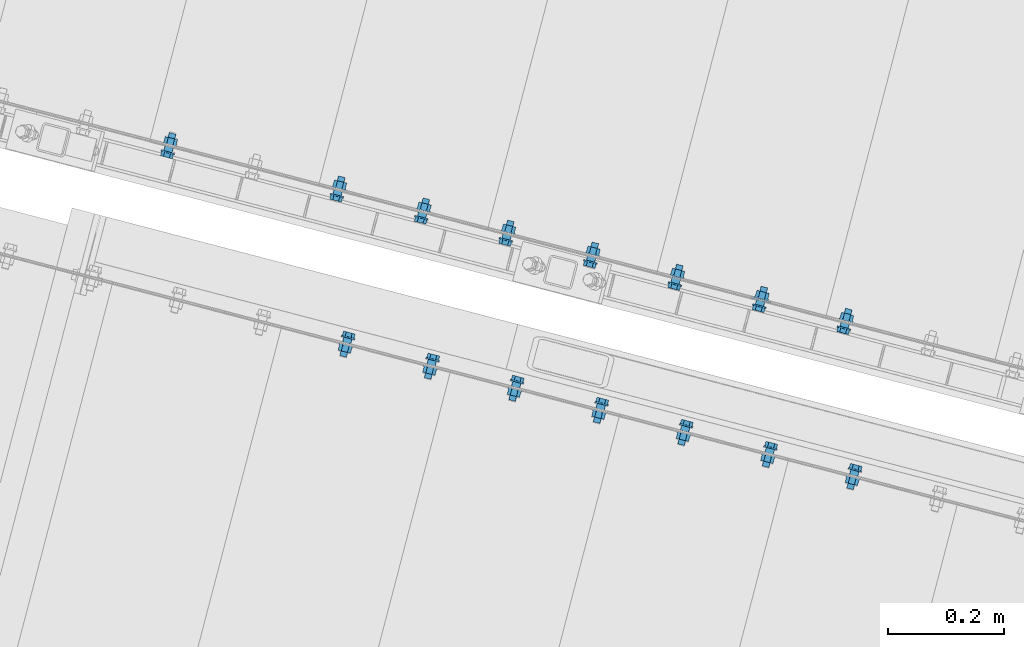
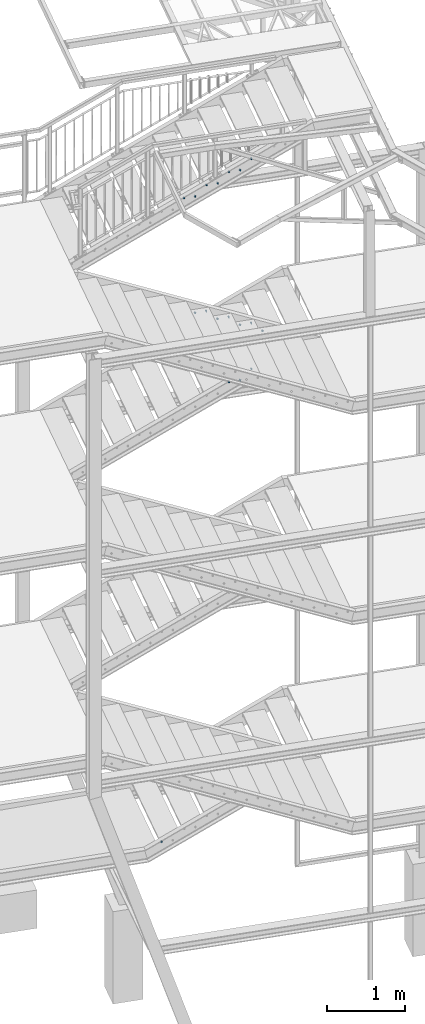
# One storey, part 140 of 169: 18 mechanical fasteners, 11 elements without a shape of their own.
"""IFC2X3 building model written with IfcOpenShell, lengths in millimetres."""

from ifc_helpers import new_model, si_unit, frame, frame_2d, origin_with_axes, origin_2d_with_axis, place, context, subcontext, project, spatial, polyline, circle_curve, parameter, trimmed, segment, composite_curve, circle, outline, extrude, source, transform, mapped, material, type_object, element, aggregate, save


model = new_model("IFC2X3")

# Units and contexts
model_context = context("Model", 3, precision=1e-05, world=origin_with_axes())
body_context = subcontext(model_context, "Body", "Model", "MODEL_VIEW")
ifc_project = project(units=[si_unit("LENGTHUNIT", "METRE", prefix="MILLI"), si_unit("AREAUNIT", "SQUARE_METRE"), si_unit("VOLUMEUNIT", "CUBIC_METRE"), si_unit("MASSUNIT", "GRAM", prefix="KILO"), si_unit("TIMEUNIT", "SECOND"), si_unit("PLANEANGLEUNIT", "RADIAN"), si_unit("SOLIDANGLEUNIT", "STERADIAN"), si_unit("THERMODYNAMICTEMPERATUREUNIT", "DEGREE_CELSIUS"), si_unit("LUMINOUSINTENSITYUNIT", "LUMEN")], contexts=[model_context])

# Site, building, storey
site_placement = place(None, origin_with_axes())
site = spatial("IfcSite", under=ifc_project, at=site_placement, Name="Undefined", CompositionType="ELEMENT")
building_placement = place(site_placement, origin_with_axes())
building = spatial("IfcBuilding", under=site, at=building_placement, Name="Undefined", CompositionType="ELEMENT")
storey_placement = place(building_placement, origin_with_axes())
storey = spatial("IfcBuildingStorey", under=building, at=storey_placement, Name="Undefined", CompositionType="ELEMENT", Elevation=0.0)

# Assembly, mechanical fastener
assembly_1_placement = place(storey_placement, origin_with_axes())
assembly_1 = element("IfcElementAssembly", 1, at=assembly_1_placement, inside=storey, Name="Steel Assembly", AssemblyPlace="NOTDEFINED", PredefinedType="RIGID_FRAME")
ifc_material = material(Name="Undefined")
discrete_accessory_type = type_object("IfcDiscreteAccessoryType", Name="Bolt assembly")
shared_shape_1 = source(origin_with_axes(), body_context, "Body", "SweptSolid", [
    extrude(circle(Radius=7.5, at=origin_2d_with_axis()), frame((0.0, -8.39999975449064, 0.0), z_axis=(0.0, 1.0, 0.0), x_axis=(1.0, 0.0, 0.0)), (0.0, 0.0, 1.0), 8.5),
    extrude(circle(Radius=7.5, at=origin_2d_with_axis()), frame((0.0, -0.100000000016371, 0.0), z_axis=(0.0, 1.0, 0.0), x_axis=(1.0, 0.0, 0.0)), (0.0, 0.0, 1.0), 3.1),
    extrude(outline(polyline([(10.39230484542, 0.0), (5.19615242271, 9.00000000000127), (-5.19615242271, 9.00000000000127), (-10.39230484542, 0.0), (-5.19615242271, -9.00000000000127), (5.19615242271, -9.00000000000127), (10.39230484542, 0.0)])), frame((0.0, -18.4999993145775, 0.0), z_axis=(0.0, 1.0, 0.0), x_axis=(1.0, 0.0, 0.0)), (0.0, 0.0, 1.0), 7.5),
    extrude(circle(Radius=6.0, at=origin_2d_with_axis()), frame((0.0, -10.9999999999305, 0.0), z_axis=(0.0, 1.0, 0.0), x_axis=(1.0, 0.0, 0.0)), (0.0, 0.0, 1.0), 35.0),
    extrude(circle(Radius=12.0, at=origin_2d_with_axis()), frame((0.0, -10.9999999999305, 0.0), z_axis=(0.0, 1.0, 0.0), x_axis=(1.0, 0.0, 0.0)), (0.0, 0.0, 1.0), 2.5),
    extrude(circle(Radius=12.0, at=origin_2d_with_axis()), frame((0.0, 2.99999999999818, 0.0), z_axis=(0.0, 1.0, 0.0), x_axis=(1.0, 0.0, 0.0)), (0.0, 0.0, 1.0), 2.5),
    extrude(outline(polyline([(10.96965511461, 0.0), (5.484827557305, 9.50000000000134), (-5.484827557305, 9.50000000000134), (-10.96965511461, 0.0), (-5.484827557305, -9.50000000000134), (5.484827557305, -9.50000000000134), (10.96965511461, 0.0)])), frame((0.0, 5.50000000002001, 0.0), z_axis=(0.0, 1.0, 0.0), x_axis=(1.0, 0.0, 0.0)), (0.0, 0.0, 1.0), 10.0),
])
mechanical_fastener_1_placement = place(assembly_1_placement, frame((-25306.9672248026, 6727.97971524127, 13550.0957858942), z_axis=(-2.54700353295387e-10, 0.0, -1.0), x_axis=(-0.967580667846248, 0.252562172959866, 0.0)))
mechanical_fastener_1 = element("IfcMechanicalFastener", 2, at=mechanical_fastener_1_placement, type_object=discrete_accessory_type, material=ifc_material, Name="Bolt assembly", NominalDiameter=12.0, NominalLength=35.0, context=body_context, shape_type="MappedRepresentation", body=[
    mapped(shared_shape_1, transform((264.999998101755, 3.26144800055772e-09, 24.9999997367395))),
])
aggregate(assembly_1, [mechanical_fastener_1])

assembly_2_placement = place(storey_placement, origin_with_axes())
assembly_2 = element("IfcElementAssembly", 3, at=assembly_2_placement, inside=storey, Name="Steel Assembly", AssemblyPlace="NOTDEFINED", PredefinedType="RIGID_FRAME")
mechanical_fastener_2_placement = place(assembly_2_placement, frame((-25597.2414285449, 6803.74836804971, 13400.0957858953), z_axis=(-2.54700353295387e-10, 0.0, -1.0), x_axis=(-0.967580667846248, 0.252562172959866, 0.0)))
mechanical_fastener_2 = element("IfcMechanicalFastener", 4, at=mechanical_fastener_2_placement, type_object=discrete_accessory_type, material=ifc_material, Name="Bolt assembly", NominalDiameter=12.0, NominalLength=35.0, context=body_context, shape_type="MappedRepresentation", body=[
    mapped(shared_shape_1, transform((264.999998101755, 3.26144800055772e-09, 24.9999997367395))),
])

assembly_3_placement = place(storey_placement, origin_with_axes())
assembly_3 = element("IfcElementAssembly", 5, at=assembly_3_placement, inside=storey, Name="Steel Assembly", AssemblyPlace="NOTDEFINED", PredefinedType="RIGID_FRAME")
mechanical_fastener_3_placement = place(assembly_3_placement, frame((-25887.5156322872, 6879.51702085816, 13250.0957858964), z_axis=(-2.54700353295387e-10, 0.0, -1.0), x_axis=(-0.967580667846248, 0.252562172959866, 0.0)))
mechanical_fastener_3 = element("IfcMechanicalFastener", 6, at=mechanical_fastener_3_placement, type_object=discrete_accessory_type, material=ifc_material, Name="Bolt assembly", NominalDiameter=12.0, NominalLength=35.0, context=body_context, shape_type="MappedRepresentation", body=[
    mapped(shared_shape_1, transform((264.999998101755, 3.26144800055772e-09, 24.9999997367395))),
])

assembly_4_placement = place(storey_placement, origin_with_axes())
assembly_4 = element("IfcElementAssembly", 7, at=assembly_4_placement, inside=storey, Name="Steel Assembly", AssemblyPlace="NOTDEFINED", PredefinedType="RIGID_FRAME")
mechanical_fastener_4_placement = place(assembly_4_placement, frame((-26177.7898360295, 6955.2856736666, 13100.0957858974), z_axis=(-2.54700353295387e-10, 0.0, -1.0), x_axis=(-0.967580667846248, 0.252562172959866, 0.0)))
mechanical_fastener_4 = element("IfcMechanicalFastener", 8, at=mechanical_fastener_4_placement, type_object=discrete_accessory_type, material=ifc_material, Name="Bolt assembly", NominalDiameter=12.0, NominalLength=35.0, context=body_context, shape_type="MappedRepresentation", body=[
    mapped(shared_shape_1, transform((264.999998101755, 3.26144800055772e-09, 24.9999997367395))),
])

assembly_5_placement = place(storey_placement, origin_with_axes())
assembly_5 = element("IfcElementAssembly", 9, at=assembly_5_placement, inside=storey, Name="Steel Assembly", AssemblyPlace="NOTDEFINED", PredefinedType="RIGID_FRAME")
mechanical_fastener_5_placement = place(assembly_5_placement, frame((-26531.2730062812, 6788.96490047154, 11450.3215824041), z_axis=(-2.54700353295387e-10, 0.0, -1.0), x_axis=(0.96754609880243, -0.252694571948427, 0.0)))
mechanical_fastener_5 = element("IfcMechanicalFastener", 10, at=mechanical_fastener_5_placement, type_object=discrete_accessory_type, material=ifc_material, Name="Bolt assembly", NominalDiameter=12.0, NominalLength=35.0, context=body_context, shape_type="MappedRepresentation", body=[
    mapped(shared_shape_1, transform((264.999998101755, 3.26144800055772e-09, 24.9999997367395))),
])

assembly_6_placement = place(storey_placement, origin_with_axes())
assembly_6 = element("IfcElementAssembly", 11, at=assembly_6_placement, inside=storey, Name="Steel Assembly", AssemblyPlace="NOTDEFINED", PredefinedType="RIGID_FRAME")
mechanical_fastener_6_placement = place(assembly_6_placement, frame((-26241.009173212, 6713.1565281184, 11300.321582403), z_axis=(-2.54700353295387e-10, 0.0, -1.0), x_axis=(0.96754609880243, -0.252694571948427, 0.0)))
mechanical_fastener_6 = element("IfcMechanicalFastener", 12, at=mechanical_fastener_6_placement, type_object=discrete_accessory_type, material=ifc_material, Name="Bolt assembly", NominalDiameter=12.0, NominalLength=35.0, context=body_context, shape_type="MappedRepresentation", body=[
    mapped(shared_shape_1, transform((264.999998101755, 3.26144800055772e-09, 24.9999997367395))),
])

assembly_7_placement = place(storey_placement, origin_with_axes())
assembly_7 = element("IfcElementAssembly", 13, at=assembly_7_placement, inside=storey, Name="Steel Assembly", AssemblyPlace="NOTDEFINED", PredefinedType="RIGID_FRAME")
mechanical_fastener_7_placement = place(assembly_7_placement, frame((-25950.7453401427, 6637.34815576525, 11150.3215824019), z_axis=(-2.54700353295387e-10, 0.0, -1.0), x_axis=(0.96754609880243, -0.252694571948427, 0.0)))
mechanical_fastener_7 = element("IfcMechanicalFastener", 14, at=mechanical_fastener_7_placement, type_object=discrete_accessory_type, material=ifc_material, Name="Bolt assembly", NominalDiameter=12.0, NominalLength=35.0, context=body_context, shape_type="MappedRepresentation", body=[
    mapped(shared_shape_1, transform((264.999998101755, 3.26144800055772e-09, 24.9999997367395))),
])

assembly_8_placement = place(storey_placement, origin_with_axes())
assembly_8 = element("IfcElementAssembly", 15, at=assembly_8_placement, inside=storey, Name="Steel Assembly", AssemblyPlace="NOTDEFINED", PredefinedType="RIGID_FRAME")
mechanical_fastener_8_placement = place(assembly_8_placement, frame((-25307.0813021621, 6727.54280026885, 10250.0958168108), z_axis=(-2.54700353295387e-10, 0.0, -1.0), x_axis=(-0.967580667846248, 0.252562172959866, 0.0)))
mechanical_fastener_8 = element("IfcMechanicalFastener", 16, at=mechanical_fastener_8_placement, type_object=discrete_accessory_type, material=ifc_material, Name="Bolt assembly", NominalDiameter=12.0, NominalLength=35.0, context=body_context, shape_type="MappedRepresentation", body=[
    mapped(shared_shape_1, transform((264.999998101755, 3.26144800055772e-09, 24.9999997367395))),
])
aggregate(assembly_8, [mechanical_fastener_8])

assembly_9_placement = place(storey_placement, origin_with_axes())
assembly_9 = element("IfcElementAssembly", 17, at=assembly_9_placement, inside=storey, Name="Steel Assembly", AssemblyPlace="NOTDEFINED", PredefinedType="RIGID_FRAME")
mechanical_fastener_9_placement = place(assembly_9_placement, frame((-25597.3555059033, 6803.31145307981, 10100.0958168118), z_axis=(-2.54700353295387e-10, 0.0, -1.0), x_axis=(-0.967580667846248, 0.252562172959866, 0.0)))
mechanical_fastener_9 = element("IfcMechanicalFastener", 18, at=mechanical_fastener_9_placement, type_object=discrete_accessory_type, material=ifc_material, Name="Bolt assembly", NominalDiameter=12.0, NominalLength=35.0, context=body_context, shape_type="MappedRepresentation", body=[
    mapped(shared_shape_1, transform((264.999998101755, 3.26144800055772e-09, 24.9999997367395))),
])

assembly_10_placement = place(storey_placement, origin_with_axes())
assembly_10 = element("IfcElementAssembly", 19, at=assembly_10_placement, inside=storey, Name="Steel Assembly", AssemblyPlace="NOTDEFINED", PredefinedType="RIGID_FRAME")
mechanical_fastener_10_placement = place(assembly_10_placement, frame((-26468.4062800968, 7029.74358397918, 3050.09587438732), z_axis=(-2.54700353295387e-10, 0.0, -1.0), x_axis=(-0.967580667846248, 0.252562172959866, 0.0)))
mechanical_fastener_10 = element("IfcMechanicalFastener", 20, at=mechanical_fastener_10_placement, type_object=discrete_accessory_type, material=ifc_material, Name="Bolt assembly", NominalDiameter=12.0, NominalLength=35.0, context=body_context, shape_type="MappedRepresentation", body=[
    mapped(shared_shape_1, transform((264.999998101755, 3.26144800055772e-09, 24.9999997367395))),
])
aggregate(assembly_10, [mechanical_fastener_10])

# Mechanical fastener
shared_shape_2 = source(origin_with_axes(), body_context, "Body", "SweptSolid", [
    extrude(circle(Radius=7.5, at=origin_2d_with_axis()), frame((0.0, -8.39999975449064, 0.0), z_axis=(0.0, 1.0, 0.0), x_axis=(1.0, 0.0, 0.0)), (0.0, 0.0, 1.0), 8.5),
    extrude(outline(composite_curve([segment(polyline([(-10.0, 7.5), (10.0, 7.5)]), True, "CONTINUOUS"), segment(trimmed(circle_curve(frame_2d((10.0, 0.0), x_axis=(0.0, 1.0)), 7.5), [parameter(0.0)], [parameter(3.14159265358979)], False, "PARAMETER"), True, "CONTINUOUS"), segment(polyline([(10.0, -7.5), (-10.0, -7.5)]), True, "CONTINUOUS"), segment(trimmed(circle_curve(frame_2d((-10.0, 0.0), x_axis=(0.0, -1.0)), 7.5), [parameter(0.0)], [parameter(3.14159265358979)], False, "PARAMETER"), True, "DISCONTINUOUS")], self_intersect=False)), frame((0.0, -0.100000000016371, 0.0), z_axis=(0.0, 1.0, 0.0), x_axis=(1.0, 0.0, 0.0)), (0.0, 0.0, 1.0), 3.1),
    extrude(outline(polyline([(10.39230484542, 0.0), (5.19615242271, 9.00000000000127), (-5.19615242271, 9.00000000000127), (-10.39230484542, 0.0), (-5.19615242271, -9.00000000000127), (5.19615242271, -9.00000000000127), (10.39230484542, 0.0)])), frame((0.0, -18.4999993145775, 0.0), z_axis=(0.0, 1.0, 0.0), x_axis=(1.0, 0.0, 0.0)), (0.0, 0.0, 1.0), 7.5),
    extrude(circle(Radius=6.0, at=origin_2d_with_axis()), frame((0.0, -10.9999999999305, 0.0), z_axis=(0.0, 1.0, 0.0), x_axis=(1.0, 0.0, 0.0)), (0.0, 0.0, 1.0), 35.0),
    extrude(circle(Radius=12.0, at=origin_2d_with_axis()), frame((0.0, -10.9999999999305, 0.0), z_axis=(0.0, 1.0, 0.0), x_axis=(1.0, 0.0, 0.0)), (0.0, 0.0, 1.0), 2.5),
    extrude(circle(Radius=12.0, at=origin_2d_with_axis()), frame((0.0, 2.99999999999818, 0.0), z_axis=(0.0, 1.0, 0.0), x_axis=(1.0, 0.0, 0.0)), (0.0, 0.0, 1.0), 2.5),
    extrude(outline(polyline([(10.96965511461, 0.0), (5.484827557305, 9.50000000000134), (-5.484827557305, 9.50000000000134), (-10.96965511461, 0.0), (-5.484827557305, -9.50000000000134), (5.484827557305, -9.50000000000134), (10.96965511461, 0.0)])), frame((0.0, 5.50000000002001, 0.0), z_axis=(0.0, 1.0, 0.0), x_axis=(1.0, 0.0, 0.0)), (0.0, 0.0, 1.0), 10.0),
])
mechanical_fastener_11_placement = place(assembly_2_placement, frame((-25597.2414285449, 6803.74836804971, 13400.0957858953), z_axis=(-2.54700353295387e-10, 0.0, -1.0), x_axis=(-0.967580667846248, 0.252562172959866, 0.0)))
mechanical_fastener_11 = element("IfcMechanicalFastener", 21, at=mechanical_fastener_11_placement, type_object=discrete_accessory_type, material=ifc_material, Name="Bolt assembly", NominalDiameter=12.0, NominalLength=35.0, context=body_context, shape_type="MappedRepresentation", body=[
    mapped(shared_shape_2, transform((115.000000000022, -4.04725142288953e-10, 25.0))),
])

aggregate(assembly_2, [mechanical_fastener_11, mechanical_fastener_2])

shared_shape_3 = source(origin_with_axes(), body_context, "Body", "SweptSolid", [
    extrude(circle(Radius=7.5, at=origin_2d_with_axis()), frame((0.0, -8.39999975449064, 0.0), z_axis=(0.0, 1.0, 0.0), x_axis=(1.0, 0.0, 0.0)), (0.0, 0.0, 1.0), 8.5),
    extrude(outline(composite_curve([segment(polyline([(-10.0, 7.5), (10.0, 7.5)]), True, "CONTINUOUS"), segment(trimmed(circle_curve(frame_2d((10.0, 0.0), x_axis=(0.0, 1.0)), 7.5), [parameter(0.0)], [parameter(3.14159265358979)], False, "PARAMETER"), True, "CONTINUOUS"), segment(polyline([(10.0, -7.5), (-10.0, -7.5)]), True, "CONTINUOUS"), segment(trimmed(circle_curve(frame_2d((-10.0, 0.0), x_axis=(0.0, -1.0)), 7.5), [parameter(0.0)], [parameter(3.14159265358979)], False, "PARAMETER"), True, "DISCONTINUOUS")], self_intersect=False)), frame((0.0, -0.100000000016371, 0.0), z_axis=(0.0, 1.0, 0.0), x_axis=(1.0, 0.0, 0.0)), (0.0, 0.0, 1.0), 3.1),
    extrude(outline(polyline([(10.39230484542, 0.0), (5.19615242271, 9.00000000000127), (-5.19615242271, 9.00000000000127), (-10.39230484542, 0.0), (-5.19615242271, -9.00000000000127), (5.19615242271, -9.00000000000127), (10.39230484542, 0.0)])), frame((0.0, -18.4999993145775, 0.0), z_axis=(0.0, 1.0, 0.0), x_axis=(1.0, 0.0, 0.0)), (0.0, 0.0, 1.0), 7.5),
    extrude(circle(Radius=6.0, at=origin_2d_with_axis()), frame((0.0, -10.9999999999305, 0.0), z_axis=(0.0, 1.0, 0.0), x_axis=(1.0, 0.0, 0.0)), (0.0, 0.0, 1.0), 35.0),
    extrude(circle(Radius=12.0, at=origin_2d_with_axis()), frame((0.0, -10.9999999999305, 0.0), z_axis=(0.0, 1.0, 0.0), x_axis=(1.0, 0.0, 0.0)), (0.0, 0.0, 1.0), 2.5),
    extrude(circle(Radius=12.0, at=origin_2d_with_axis()), frame((0.0, 2.99999999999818, 0.0), z_axis=(0.0, 1.0, 0.0), x_axis=(1.0, 0.0, 0.0)), (0.0, 0.0, 1.0), 2.5),
    extrude(outline(polyline([(10.96965511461, 0.0), (5.484827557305, 9.50000000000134), (-5.484827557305, 9.50000000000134), (-10.96965511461, 0.0), (-5.484827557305, -9.50000000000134), (5.484827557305, -9.50000000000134), (10.96965511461, 0.0)])), frame((0.0, 5.50000000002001, 0.0), z_axis=(0.0, 1.0, 0.0), x_axis=(1.0, 0.0, 0.0)), (0.0, 0.0, 1.0), 10.0),
])
mechanical_fastener_12_placement = place(assembly_3_placement, frame((-25887.5156322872, 6879.51702085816, 13250.0957858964), z_axis=(-2.54700353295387e-10, 0.0, -1.0), x_axis=(-0.967580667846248, 0.252562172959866, 0.0)))
mechanical_fastener_12 = element("IfcMechanicalFastener", 22, at=mechanical_fastener_12_placement, type_object=discrete_accessory_type, material=ifc_material, Name="Bolt assembly", NominalDiameter=12.0, NominalLength=35.0, context=body_context, shape_type="MappedRepresentation", body=[
    mapped(shared_shape_3, transform((115.000000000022, -4.04725142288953e-10, 25.0))),
])

aggregate(assembly_3, [mechanical_fastener_12, mechanical_fastener_3])

shared_shape_4 = source(origin_with_axes(), body_context, "Body", "SweptSolid", [
    extrude(circle(Radius=7.5, at=origin_2d_with_axis()), frame((0.0, -8.39999975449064, 0.0), z_axis=(0.0, 1.0, 0.0), x_axis=(1.0, 0.0, 0.0)), (0.0, 0.0, 1.0), 8.5),
    extrude(outline(composite_curve([segment(polyline([(-10.0, 7.5), (10.0, 7.5)]), True, "CONTINUOUS"), segment(trimmed(circle_curve(frame_2d((10.0, 0.0), x_axis=(0.0, 1.0)), 7.5), [parameter(0.0)], [parameter(3.14159265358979)], False, "PARAMETER"), True, "CONTINUOUS"), segment(polyline([(10.0, -7.5), (-10.0, -7.5)]), True, "CONTINUOUS"), segment(trimmed(circle_curve(frame_2d((-10.0, 0.0), x_axis=(0.0, -1.0)), 7.5), [parameter(0.0)], [parameter(3.14159265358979)], False, "PARAMETER"), True, "DISCONTINUOUS")], self_intersect=False)), frame((0.0, -0.100000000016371, 0.0), z_axis=(0.0, 1.0, 0.0), x_axis=(1.0, 0.0, 0.0)), (0.0, 0.0, 1.0), 3.1),
    extrude(outline(polyline([(10.39230484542, 0.0), (5.19615242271, 9.00000000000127), (-5.19615242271, 9.00000000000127), (-10.39230484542, 0.0), (-5.19615242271, -9.00000000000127), (5.19615242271, -9.00000000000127), (10.39230484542, 0.0)])), frame((0.0, -18.4999993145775, 0.0), z_axis=(0.0, 1.0, 0.0), x_axis=(1.0, 0.0, 0.0)), (0.0, 0.0, 1.0), 7.5),
    extrude(circle(Radius=6.0, at=origin_2d_with_axis()), frame((0.0, -10.9999999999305, 0.0), z_axis=(0.0, 1.0, 0.0), x_axis=(1.0, 0.0, 0.0)), (0.0, 0.0, 1.0), 35.0),
    extrude(circle(Radius=12.0, at=origin_2d_with_axis()), frame((0.0, -10.9999999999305, 0.0), z_axis=(0.0, 1.0, 0.0), x_axis=(1.0, 0.0, 0.0)), (0.0, 0.0, 1.0), 2.5),
    extrude(circle(Radius=12.0, at=origin_2d_with_axis()), frame((0.0, 2.99999999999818, 0.0), z_axis=(0.0, 1.0, 0.0), x_axis=(1.0, 0.0, 0.0)), (0.0, 0.0, 1.0), 2.5),
    extrude(outline(polyline([(10.96965511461, 0.0), (5.484827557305, 9.50000000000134), (-5.484827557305, 9.50000000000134), (-10.96965511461, 0.0), (-5.484827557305, -9.50000000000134), (5.484827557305, -9.50000000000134), (10.96965511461, 0.0)])), frame((0.0, 5.50000000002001, 0.0), z_axis=(0.0, 1.0, 0.0), x_axis=(1.0, 0.0, 0.0)), (0.0, 0.0, 1.0), 10.0),
])
mechanical_fastener_13_placement = place(assembly_4_placement, frame((-26177.7898360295, 6955.2856736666, 13100.0957858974), z_axis=(-2.54700353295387e-10, 0.0, -1.0), x_axis=(-0.967580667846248, 0.252562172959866, 0.0)))
mechanical_fastener_13 = element("IfcMechanicalFastener", 23, at=mechanical_fastener_13_placement, type_object=discrete_accessory_type, material=ifc_material, Name="Bolt assembly", NominalDiameter=12.0, NominalLength=35.0, context=body_context, shape_type="MappedRepresentation", body=[
    mapped(shared_shape_4, transform((115.000000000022, -4.04725142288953e-10, 25.0))),
])

aggregate(assembly_4, [mechanical_fastener_13, mechanical_fastener_4])

shared_shape_5 = source(origin_with_axes(), body_context, "Body", "SweptSolid", [
    extrude(circle(Radius=7.5, at=origin_2d_with_axis()), frame((0.0, -8.39999975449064, 0.0), z_axis=(0.0, 1.0, 0.0), x_axis=(1.0, 0.0, 0.0)), (0.0, 0.0, 1.0), 8.5),
    extrude(outline(composite_curve([segment(polyline([(-10.0, 7.5), (10.0, 7.5)]), True, "CONTINUOUS"), segment(trimmed(circle_curve(frame_2d((10.0, 0.0), x_axis=(0.0, 1.0)), 7.5), [parameter(0.0)], [parameter(3.14159265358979)], False, "PARAMETER"), True, "CONTINUOUS"), segment(polyline([(10.0, -7.5), (-10.0, -7.5)]), True, "CONTINUOUS"), segment(trimmed(circle_curve(frame_2d((-10.0, 0.0), x_axis=(0.0, -1.0)), 7.5), [parameter(0.0)], [parameter(3.14159265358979)], False, "PARAMETER"), True, "DISCONTINUOUS")], self_intersect=False)), frame((0.0, -0.100000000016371, 0.0), z_axis=(0.0, 1.0, 0.0), x_axis=(1.0, 0.0, 0.0)), (0.0, 0.0, 1.0), 3.1),
    extrude(outline(polyline([(10.39230484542, 0.0), (5.19615242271, 9.00000000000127), (-5.19615242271, 9.00000000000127), (-10.39230484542, 0.0), (-5.19615242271, -9.00000000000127), (5.19615242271, -9.00000000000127), (10.39230484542, 0.0)])), frame((0.0, -18.4999993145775, 0.0), z_axis=(0.0, 1.0, 0.0), x_axis=(1.0, 0.0, 0.0)), (0.0, 0.0, 1.0), 7.5),
    extrude(circle(Radius=6.0, at=origin_2d_with_axis()), frame((0.0, -10.9999999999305, 0.0), z_axis=(0.0, 1.0, 0.0), x_axis=(1.0, 0.0, 0.0)), (0.0, 0.0, 1.0), 35.0),
    extrude(circle(Radius=12.0, at=origin_2d_with_axis()), frame((0.0, -10.9999999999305, 0.0), z_axis=(0.0, 1.0, 0.0), x_axis=(1.0, 0.0, 0.0)), (0.0, 0.0, 1.0), 2.5),
    extrude(circle(Radius=12.0, at=origin_2d_with_axis()), frame((0.0, 2.99999999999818, 0.0), z_axis=(0.0, 1.0, 0.0), x_axis=(1.0, 0.0, 0.0)), (0.0, 0.0, 1.0), 2.5),
    extrude(outline(polyline([(10.96965511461, 0.0), (5.484827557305, 9.50000000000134), (-5.484827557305, 9.50000000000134), (-10.96965511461, 0.0), (-5.484827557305, -9.50000000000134), (5.484827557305, -9.50000000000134), (10.96965511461, 0.0)])), frame((0.0, 5.50000000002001, 0.0), z_axis=(0.0, 1.0, 0.0), x_axis=(1.0, 0.0, 0.0)), (0.0, 0.0, 1.0), 10.0),
])
mechanical_fastener_14_placement = place(assembly_5_placement, frame((-26531.2730062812, 6788.96490047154, 11450.3215824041), z_axis=(-2.54700353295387e-10, 0.0, -1.0), x_axis=(0.96754609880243, -0.252694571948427, 0.0)))
mechanical_fastener_14 = element("IfcMechanicalFastener", 24, at=mechanical_fastener_14_placement, type_object=discrete_accessory_type, material=ifc_material, Name="Bolt assembly", NominalDiameter=12.0, NominalLength=35.0, context=body_context, shape_type="MappedRepresentation", body=[
    mapped(shared_shape_5, transform((115.000000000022, -4.04725142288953e-10, 25.0))),
])

aggregate(assembly_5, [mechanical_fastener_14, mechanical_fastener_5])

shared_shape_6 = source(origin_with_axes(), body_context, "Body", "SweptSolid", [
    extrude(circle(Radius=7.5, at=origin_2d_with_axis()), frame((0.0, -8.39999975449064, 0.0), z_axis=(0.0, 1.0, 0.0), x_axis=(1.0, 0.0, 0.0)), (0.0, 0.0, 1.0), 8.5),
    extrude(outline(composite_curve([segment(polyline([(-10.0, 7.5), (10.0, 7.5)]), True, "CONTINUOUS"), segment(trimmed(circle_curve(frame_2d((10.0, 0.0), x_axis=(0.0, 1.0)), 7.5), [parameter(0.0)], [parameter(3.14159265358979)], False, "PARAMETER"), True, "CONTINUOUS"), segment(polyline([(10.0, -7.5), (-10.0, -7.5)]), True, "CONTINUOUS"), segment(trimmed(circle_curve(frame_2d((-10.0, 0.0), x_axis=(0.0, -1.0)), 7.5), [parameter(0.0)], [parameter(3.14159265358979)], False, "PARAMETER"), True, "DISCONTINUOUS")], self_intersect=False)), frame((0.0, -0.100000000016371, 0.0), z_axis=(0.0, 1.0, 0.0), x_axis=(1.0, 0.0, 0.0)), (0.0, 0.0, 1.0), 3.1),
    extrude(outline(polyline([(10.39230484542, 0.0), (5.19615242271, 9.00000000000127), (-5.19615242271, 9.00000000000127), (-10.39230484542, 0.0), (-5.19615242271, -9.00000000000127), (5.19615242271, -9.00000000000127), (10.39230484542, 0.0)])), frame((0.0, -18.4999993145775, 0.0), z_axis=(0.0, 1.0, 0.0), x_axis=(1.0, 0.0, 0.0)), (0.0, 0.0, 1.0), 7.5),
    extrude(circle(Radius=6.0, at=origin_2d_with_axis()), frame((0.0, -10.9999999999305, 0.0), z_axis=(0.0, 1.0, 0.0), x_axis=(1.0, 0.0, 0.0)), (0.0, 0.0, 1.0), 35.0),
    extrude(circle(Radius=12.0, at=origin_2d_with_axis()), frame((0.0, -10.9999999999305, 0.0), z_axis=(0.0, 1.0, 0.0), x_axis=(1.0, 0.0, 0.0)), (0.0, 0.0, 1.0), 2.5),
    extrude(circle(Radius=12.0, at=origin_2d_with_axis()), frame((0.0, 2.99999999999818, 0.0), z_axis=(0.0, 1.0, 0.0), x_axis=(1.0, 0.0, 0.0)), (0.0, 0.0, 1.0), 2.5),
    extrude(outline(polyline([(10.96965511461, 0.0), (5.484827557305, 9.50000000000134), (-5.484827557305, 9.50000000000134), (-10.96965511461, 0.0), (-5.484827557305, -9.50000000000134), (5.484827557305, -9.50000000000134), (10.96965511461, 0.0)])), frame((0.0, 5.50000000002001, 0.0), z_axis=(0.0, 1.0, 0.0), x_axis=(1.0, 0.0, 0.0)), (0.0, 0.0, 1.0), 10.0),
])
mechanical_fastener_15_placement = place(assembly_6_placement, frame((-26241.009173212, 6713.1565281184, 11300.321582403), z_axis=(-2.54700353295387e-10, 0.0, -1.0), x_axis=(0.96754609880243, -0.252694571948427, 0.0)))
mechanical_fastener_15 = element("IfcMechanicalFastener", 25, at=mechanical_fastener_15_placement, type_object=discrete_accessory_type, material=ifc_material, Name="Bolt assembly", NominalDiameter=12.0, NominalLength=35.0, context=body_context, shape_type="MappedRepresentation", body=[
    mapped(shared_shape_6, transform((115.000000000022, -4.04725142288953e-10, 25.0))),
])

aggregate(assembly_6, [mechanical_fastener_15, mechanical_fastener_6])

shared_shape_7 = source(origin_with_axes(), body_context, "Body", "SweptSolid", [
    extrude(circle(Radius=7.5, at=origin_2d_with_axis()), frame((0.0, -8.39999975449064, 0.0), z_axis=(0.0, 1.0, 0.0), x_axis=(1.0, 0.0, 0.0)), (0.0, 0.0, 1.0), 8.5),
    extrude(outline(composite_curve([segment(polyline([(-10.0, 7.5), (10.0, 7.5)]), True, "CONTINUOUS"), segment(trimmed(circle_curve(frame_2d((10.0, 0.0), x_axis=(0.0, 1.0)), 7.5), [parameter(0.0)], [parameter(3.14159265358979)], False, "PARAMETER"), True, "CONTINUOUS"), segment(polyline([(10.0, -7.5), (-10.0, -7.5)]), True, "CONTINUOUS"), segment(trimmed(circle_curve(frame_2d((-10.0, 0.0), x_axis=(0.0, -1.0)), 7.5), [parameter(0.0)], [parameter(3.14159265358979)], False, "PARAMETER"), True, "DISCONTINUOUS")], self_intersect=False)), frame((0.0, -0.100000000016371, 0.0), z_axis=(0.0, 1.0, 0.0), x_axis=(1.0, 0.0, 0.0)), (0.0, 0.0, 1.0), 3.1),
    extrude(outline(polyline([(10.39230484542, 0.0), (5.19615242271, 9.00000000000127), (-5.19615242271, 9.00000000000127), (-10.39230484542, 0.0), (-5.19615242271, -9.00000000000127), (5.19615242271, -9.00000000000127), (10.39230484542, 0.0)])), frame((0.0, -18.4999993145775, 0.0), z_axis=(0.0, 1.0, 0.0), x_axis=(1.0, 0.0, 0.0)), (0.0, 0.0, 1.0), 7.5),
    extrude(circle(Radius=6.0, at=origin_2d_with_axis()), frame((0.0, -10.9999999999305, 0.0), z_axis=(0.0, 1.0, 0.0), x_axis=(1.0, 0.0, 0.0)), (0.0, 0.0, 1.0), 35.0),
    extrude(circle(Radius=12.0, at=origin_2d_with_axis()), frame((0.0, -10.9999999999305, 0.0), z_axis=(0.0, 1.0, 0.0), x_axis=(1.0, 0.0, 0.0)), (0.0, 0.0, 1.0), 2.5),
    extrude(circle(Radius=12.0, at=origin_2d_with_axis()), frame((0.0, 2.99999999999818, 0.0), z_axis=(0.0, 1.0, 0.0), x_axis=(1.0, 0.0, 0.0)), (0.0, 0.0, 1.0), 2.5),
    extrude(outline(polyline([(10.96965511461, 0.0), (5.484827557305, 9.50000000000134), (-5.484827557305, 9.50000000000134), (-10.96965511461, 0.0), (-5.484827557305, -9.50000000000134), (5.484827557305, -9.50000000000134), (10.96965511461, 0.0)])), frame((0.0, 5.50000000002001, 0.0), z_axis=(0.0, 1.0, 0.0), x_axis=(1.0, 0.0, 0.0)), (0.0, 0.0, 1.0), 10.0),
])
mechanical_fastener_16_placement = place(assembly_7_placement, frame((-25950.7453401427, 6637.34815576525, 11150.3215824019), z_axis=(-2.54700353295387e-10, 0.0, -1.0), x_axis=(0.96754609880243, -0.252694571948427, 0.0)))
mechanical_fastener_16 = element("IfcMechanicalFastener", 26, at=mechanical_fastener_16_placement, type_object=discrete_accessory_type, material=ifc_material, Name="Bolt assembly", NominalDiameter=12.0, NominalLength=35.0, context=body_context, shape_type="MappedRepresentation", body=[
    mapped(shared_shape_7, transform((115.000000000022, -4.04725142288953e-10, 25.0))),
])

aggregate(assembly_7, [mechanical_fastener_16, mechanical_fastener_7])

# Assembly, mechanical fastener
assembly_11_placement = place(storey_placement, origin_with_axes())
assembly_11 = element("IfcElementAssembly", 27, at=assembly_11_placement, inside=storey, Name="Steel Assembly", AssemblyPlace="NOTDEFINED", PredefinedType="RIGID_FRAME")
shared_shape_8 = source(origin_with_axes(), body_context, "Body", "SweptSolid", [
    extrude(circle(Radius=7.5, at=origin_2d_with_axis()), frame((0.0, -8.39999975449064, 0.0), z_axis=(0.0, 1.0, 0.0), x_axis=(1.0, 0.0, 0.0)), (0.0, 0.0, 1.0), 8.5),
    extrude(outline(composite_curve([segment(polyline([(-10.0, 7.5), (10.0, 7.5)]), True, "CONTINUOUS"), segment(trimmed(circle_curve(frame_2d((10.0, 0.0), x_axis=(0.0, 1.0)), 7.5), [parameter(0.0)], [parameter(3.14159265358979)], False, "PARAMETER"), True, "CONTINUOUS"), segment(polyline([(10.0, -7.5), (-10.0, -7.5)]), True, "CONTINUOUS"), segment(trimmed(circle_curve(frame_2d((-10.0, 0.0), x_axis=(0.0, -1.0)), 7.5), [parameter(0.0)], [parameter(3.14159265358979)], False, "PARAMETER"), True, "DISCONTINUOUS")], self_intersect=False)), frame((0.0, -0.100000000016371, 0.0), z_axis=(0.0, 1.0, 0.0), x_axis=(1.0, 0.0, 0.0)), (0.0, 0.0, 1.0), 3.1),
    extrude(outline(polyline([(10.39230484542, 0.0), (5.19615242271, 9.00000000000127), (-5.19615242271, 9.00000000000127), (-10.39230484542, 0.0), (-5.19615242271, -9.00000000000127), (5.19615242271, -9.00000000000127), (10.39230484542, 0.0)])), frame((0.0, -18.4999993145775, 0.0), z_axis=(0.0, 1.0, 0.0), x_axis=(1.0, 0.0, 0.0)), (0.0, 0.0, 1.0), 7.5),
    extrude(circle(Radius=6.0, at=origin_2d_with_axis()), frame((0.0, -10.9999999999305, 0.0), z_axis=(0.0, 1.0, 0.0), x_axis=(1.0, 0.0, 0.0)), (0.0, 0.0, 1.0), 35.0),
    extrude(circle(Radius=12.0, at=origin_2d_with_axis()), frame((0.0, -10.9999999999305, 0.0), z_axis=(0.0, 1.0, 0.0), x_axis=(1.0, 0.0, 0.0)), (0.0, 0.0, 1.0), 2.5),
    extrude(circle(Radius=12.0, at=origin_2d_with_axis()), frame((0.0, 2.99999999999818, 0.0), z_axis=(0.0, 1.0, 0.0), x_axis=(1.0, 0.0, 0.0)), (0.0, 0.0, 1.0), 2.5),
    extrude(outline(polyline([(10.96965511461, 0.0), (5.484827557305, 9.50000000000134), (-5.484827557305, 9.50000000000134), (-10.96965511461, 0.0), (-5.484827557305, -9.50000000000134), (5.484827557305, -9.50000000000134), (10.96965511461, 0.0)])), frame((0.0, 5.50000000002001, 0.0), z_axis=(0.0, 1.0, 0.0), x_axis=(1.0, 0.0, 0.0)), (0.0, 0.0, 1.0), 10.0),
])
mechanical_fastener_17_placement = place(assembly_11_placement, frame((-25660.4815070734, 6561.5397834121, 11000.3215824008), z_axis=(-2.54700353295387e-10, 0.0, -1.0), x_axis=(0.96754609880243, -0.252694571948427, 0.0)))
mechanical_fastener_17 = element("IfcMechanicalFastener", 28, at=mechanical_fastener_17_placement, type_object=discrete_accessory_type, material=ifc_material, Name="Bolt assembly", NominalDiameter=12.0, NominalLength=35.0, context=body_context, shape_type="MappedRepresentation", body=[
    mapped(shared_shape_8, transform((115.000000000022, -4.04725142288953e-10, 25.0))),
])
aggregate(assembly_11, [mechanical_fastener_17])

# Mechanical fastener
shared_shape_9 = source(origin_with_axes(), body_context, "Body", "SweptSolid", [
    extrude(circle(Radius=7.5, at=origin_2d_with_axis()), frame((0.0, -8.39999975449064, 0.0), z_axis=(0.0, 1.0, 0.0), x_axis=(1.0, 0.0, 0.0)), (0.0, 0.0, 1.0), 8.5),
    extrude(outline(composite_curve([segment(polyline([(-10.0, 7.5), (10.0, 7.5)]), True, "CONTINUOUS"), segment(trimmed(circle_curve(frame_2d((10.0, 0.0), x_axis=(0.0, 1.0)), 7.5), [parameter(0.0)], [parameter(3.14159265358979)], False, "PARAMETER"), True, "CONTINUOUS"), segment(polyline([(10.0, -7.5), (-10.0, -7.5)]), True, "CONTINUOUS"), segment(trimmed(circle_curve(frame_2d((-10.0, 0.0), x_axis=(0.0, -1.0)), 7.5), [parameter(0.0)], [parameter(3.14159265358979)], False, "PARAMETER"), True, "DISCONTINUOUS")], self_intersect=False)), frame((0.0, -0.100000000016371, 0.0), z_axis=(0.0, 1.0, 0.0), x_axis=(1.0, 0.0, 0.0)), (0.0, 0.0, 1.0), 3.1),
    extrude(outline(polyline([(10.39230484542, 0.0), (5.19615242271, 9.00000000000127), (-5.19615242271, 9.00000000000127), (-10.39230484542, 0.0), (-5.19615242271, -9.00000000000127), (5.19615242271, -9.00000000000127), (10.39230484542, 0.0)])), frame((0.0, -18.4999993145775, 0.0), z_axis=(0.0, 1.0, 0.0), x_axis=(1.0, 0.0, 0.0)), (0.0, 0.0, 1.0), 7.5),
    extrude(circle(Radius=6.0, at=origin_2d_with_axis()), frame((0.0, -10.9999999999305, 0.0), z_axis=(0.0, 1.0, 0.0), x_axis=(1.0, 0.0, 0.0)), (0.0, 0.0, 1.0), 35.0),
    extrude(circle(Radius=12.0, at=origin_2d_with_axis()), frame((0.0, -10.9999999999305, 0.0), z_axis=(0.0, 1.0, 0.0), x_axis=(1.0, 0.0, 0.0)), (0.0, 0.0, 1.0), 2.5),
    extrude(circle(Radius=12.0, at=origin_2d_with_axis()), frame((0.0, 2.99999999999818, 0.0), z_axis=(0.0, 1.0, 0.0), x_axis=(1.0, 0.0, 0.0)), (0.0, 0.0, 1.0), 2.5),
    extrude(outline(polyline([(10.96965511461, 0.0), (5.484827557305, 9.50000000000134), (-5.484827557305, 9.50000000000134), (-10.96965511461, 0.0), (-5.484827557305, -9.50000000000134), (5.484827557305, -9.50000000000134), (10.96965511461, 0.0)])), frame((0.0, 5.50000000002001, 0.0), z_axis=(0.0, 1.0, 0.0), x_axis=(1.0, 0.0, 0.0)), (0.0, 0.0, 1.0), 10.0),
])
mechanical_fastener_18_placement = place(assembly_9_placement, frame((-25597.3555059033, 6803.31145307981, 10100.0958168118), z_axis=(-2.54700353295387e-10, 0.0, -1.0), x_axis=(-0.967580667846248, 0.252562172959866, 0.0)))
mechanical_fastener_18 = element("IfcMechanicalFastener", 29, at=mechanical_fastener_18_placement, type_object=discrete_accessory_type, material=ifc_material, Name="Bolt assembly", NominalDiameter=12.0, NominalLength=35.0, context=body_context, shape_type="MappedRepresentation", body=[
    mapped(shared_shape_9, transform((115.000000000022, -4.04725142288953e-10, 25.0))),
])

aggregate(assembly_9, [mechanical_fastener_18, mechanical_fastener_9])

save(model, "model.ifc")
